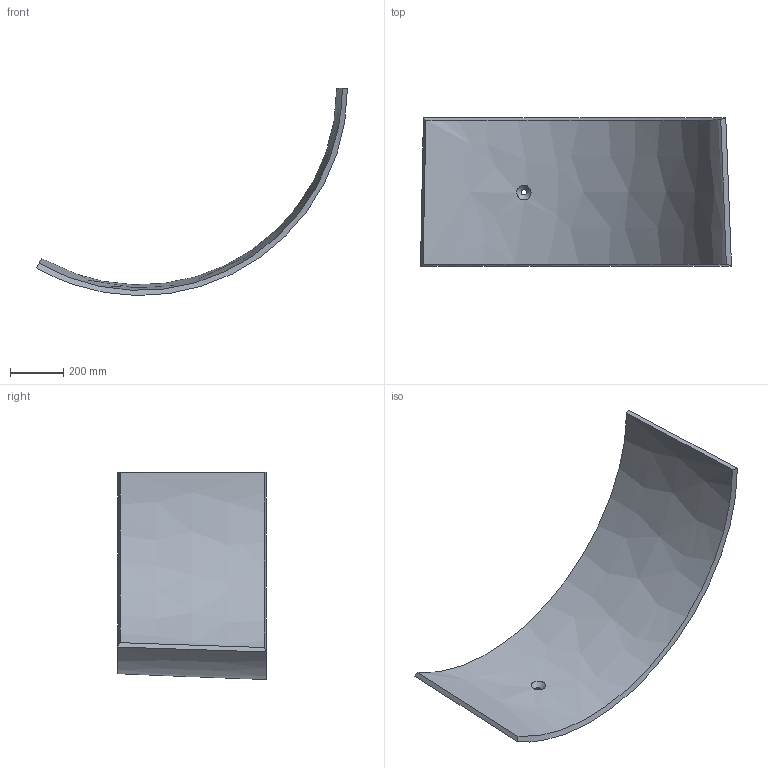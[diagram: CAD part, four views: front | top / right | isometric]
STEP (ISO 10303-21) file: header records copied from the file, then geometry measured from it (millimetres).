
FILE_DESCRIPTION (( 'STEP AP214' ), '1' );
FILE_NAME ('P2.STEP', '2025-01-09T19:43:26', ( '' ), ( '' ), 'SwSTEP 2.0', 'SolidWorks 2024', '' );
FILE_SCHEMA (( 'AUTOMOTIVE_DESIGN' ));
Length unit declared in the file: inch
Products named in the file (1): P2
Bounding box: 1164.19 x 555.62 x 775.39 mm (x, y, z)
Volume: 16678447.7 mm3; surface area: 1819373.5 mm2
Topology: 1 solids, 1 shells, 8 faces, 18 edges, 12 vertices
Faces by surface type: bspline 7, cylinder 1
Full cylindrical faces by diameter (mm): 19.431 x1
Entity records: 2362 total; most frequent: CARTESIAN_POINT 2214, ORIENTED_EDGE 30, EDGE_CURVE 15, B_SPLINE_CURVE_WITH_KNOTS 15, EDGE_LOOP 12, VERTEX_POINT 11, FACE_OUTER_BOUND 10, ADVANCED_FACE 8
